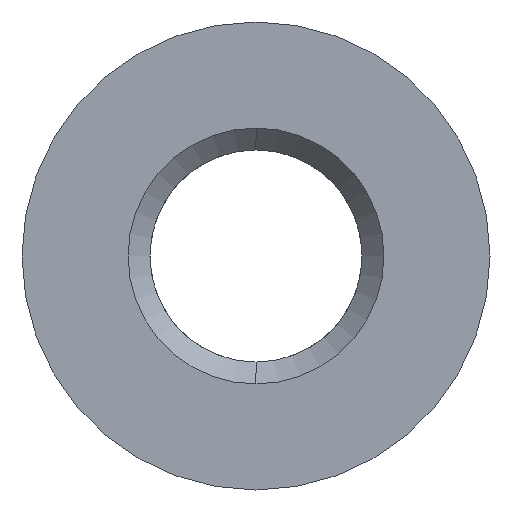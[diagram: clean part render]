
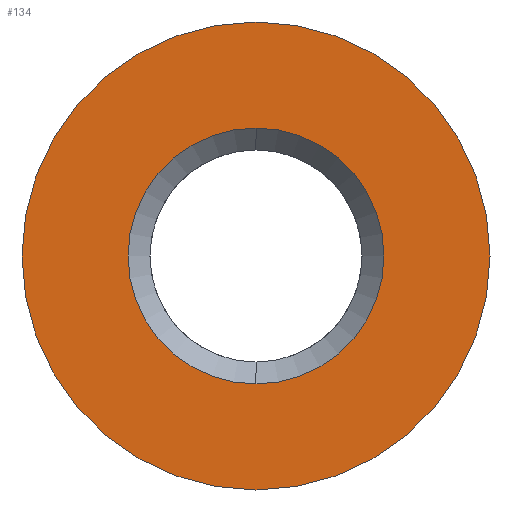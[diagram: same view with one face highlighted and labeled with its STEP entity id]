
A CAD part, left-side view. The second image highlights one B-rep face of the part: STEP entity #134.
In plain terms, the highlighted planar face has unit normal (-1, 0, 0).
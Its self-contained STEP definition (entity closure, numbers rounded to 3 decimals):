
#7 = CARTESIAN_POINT ( 'NONE',  ( -6.3, 0., -1.75 ) ) ;
#13 = CARTESIAN_POINT ( 'NONE',  ( -6.3, 0., 1.75 ) ) ;
#35 = AXIS2_PLACEMENT_3D ( 'NONE', #501, #759, #469 ) ;
#52 = VERTEX_POINT ( 'NONE', #255 ) ;
#55 = CARTESIAN_POINT ( 'NONE',  ( -6.3, 0., 0. ) ) ;
#102 = PLANE ( 'NONE',  #291 ) ;
#107 = FACE_BOUND ( 'NONE', #682, .T. ) ;
#108 = DIRECTION ( 'NONE',  ( 0., 0., 1. ) ) ;
#134 = ADVANCED_FACE ( 'NONE', ( #107, #374 ), #102, .T. ) ;
#157 = EDGE_CURVE ( 'NONE', #244, #355, #632, .T. ) ;
#182 = DIRECTION ( 'NONE',  ( 0., 0., 1. ) ) ;
#193 = ORIENTED_EDGE ( 'NONE', *, *, #558, .T. ) ;
#199 = AXIS2_PLACEMENT_3D ( 'NONE', #432, #365, #226 ) ;
#226 = DIRECTION ( 'NONE',  ( 0., 0., 1. ) ) ;
#244 = VERTEX_POINT ( 'NONE', #7 ) ;
#255 = CARTESIAN_POINT ( 'NONE',  ( -6.3, 0., 3.2 ) ) ;
#288 = VERTEX_POINT ( 'NONE', #735 ) ;
#291 = AXIS2_PLACEMENT_3D ( 'NONE', #512, #769, #182 ) ;
#343 = AXIS2_PLACEMENT_3D ( 'NONE', #55, #450, #108 ) ;
#347 = DIRECTION ( 'NONE',  ( -1., 0., 0. ) ) ;
#355 = VERTEX_POINT ( 'NONE', #13 ) ;
#360 = EDGE_LOOP ( 'NONE', ( #431, #193 ) ) ;
#365 = DIRECTION ( 'NONE',  ( 1., 0., 0. ) ) ;
#374 = FACE_OUTER_BOUND ( 'NONE', #360, .T. ) ;
#431 = ORIENTED_EDGE ( 'NONE', *, *, #698, .T. ) ;
#432 = CARTESIAN_POINT ( 'NONE',  ( -6.3, 0., 0. ) ) ;
#433 = ORIENTED_EDGE ( 'NONE', *, *, #157, .T. ) ;
#450 = DIRECTION ( 'NONE',  ( -1., 0., 0. ) ) ;
#455 = AXIS2_PLACEMENT_3D ( 'NONE', #669, #347, #727 ) ;
#469 = DIRECTION ( 'NONE',  ( 0., 0., 1. ) ) ;
#499 = ORIENTED_EDGE ( 'NONE', *, *, #791, .T. ) ;
#501 = CARTESIAN_POINT ( 'NONE',  ( -6.3, 0., 0. ) ) ;
#512 = CARTESIAN_POINT ( 'NONE',  ( -6.3, 1.45, 0. ) ) ;
#548 = CIRCLE ( 'NONE', #199, 1.75 ) ;
#558 = EDGE_CURVE ( 'NONE', #288, #52, #710, .T. ) ;
#632 = CIRCLE ( 'NONE', #35, 1.75 ) ;
#634 = CIRCLE ( 'NONE', #455, 3.2 ) ;
#669 = CARTESIAN_POINT ( 'NONE',  ( -6.3, 0., 0. ) ) ;
#682 = EDGE_LOOP ( 'NONE', ( #499, #433 ) ) ;
#698 = EDGE_CURVE ( 'NONE', #52, #288, #634, .T. ) ;
#710 = CIRCLE ( 'NONE', #343, 3.2 ) ;
#727 = DIRECTION ( 'NONE',  ( 0., 0., 1. ) ) ;
#735 = CARTESIAN_POINT ( 'NONE',  ( -6.3, 0., -3.2 ) ) ;
#759 = DIRECTION ( 'NONE',  ( 1., 0., 0. ) ) ;
#769 = DIRECTION ( 'NONE',  ( -1., 0., 0. ) ) ;
#791 = EDGE_CURVE ( 'NONE', #355, #244, #548, .T. ) ;
